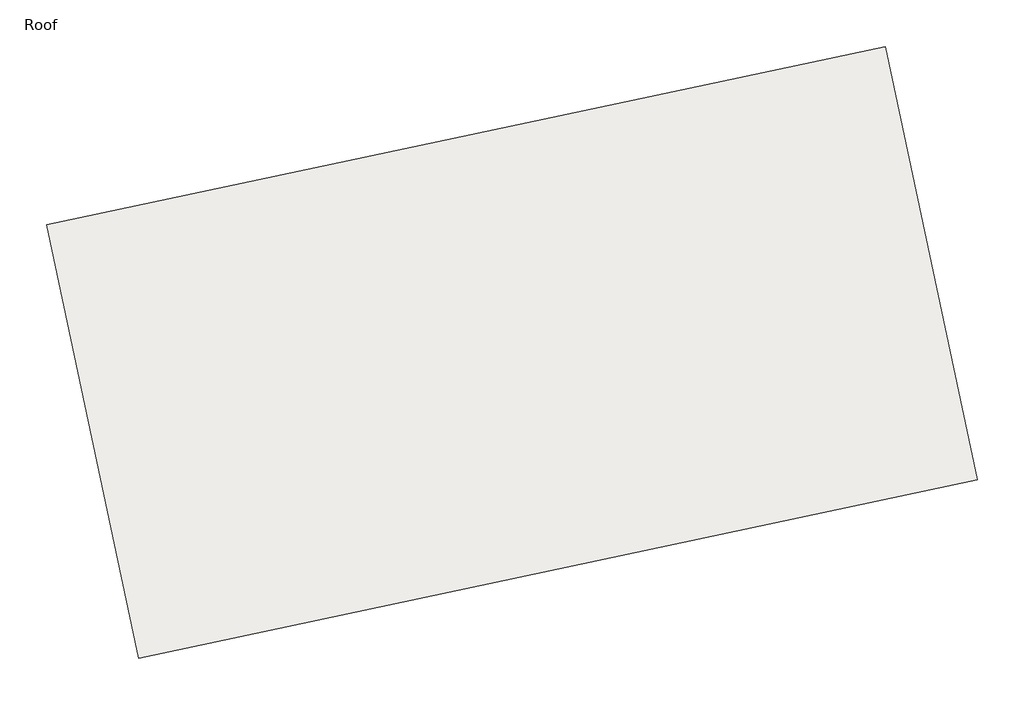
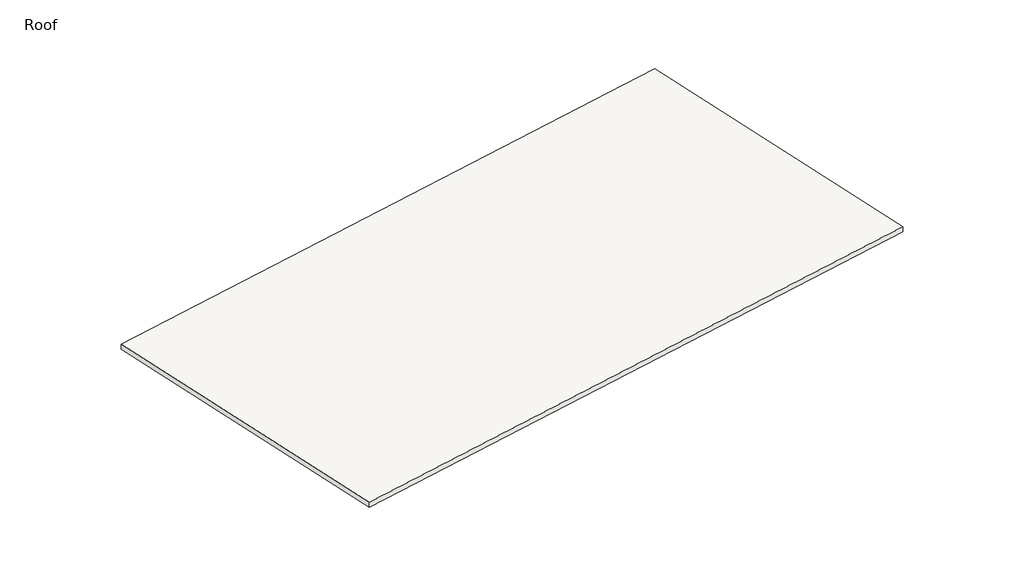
# One storey: 1 roof.
"""IFC4 building model written with IfcOpenShell, lengths in millimetres."""

from ifc_helpers import new_model, si_unit, frame, origin, place, context, project, spatial, polyline, outline, extrude, element, save

model = new_model("IFC4")

# Units and contexts
model_context = context("Model", 3, world=origin())
ifc_project = project(units=[si_unit("LENGTHUNIT", "METRE", prefix="MILLI")], contexts=[model_context])

# Site, building, storey
site = spatial("IfcSite", under=ifc_project)
building = spatial("IfcBuilding", under=site)
storey = spatial("IfcBuildingStorey", under=building, Name="Roof", Elevation=51816.0)

# Roof
placement = place(None, origin())
element("IfcRoof", 1, ObjectType="Generic - 12\"", at=placement, inside=storey, context=model_context, shape_type="SweptSolid", body=[
    extrude(outline(polyline([(-17738.8236946, -11990.7071596), (-21731.2271464, 6792.0743288), (14641.7782754, 14523.3952988), (18634.1817272, -4259.3861895), (-17738.8236946, -11990.7071596)])), frame((0.0, 0.0, 51816.0), z_axis=(0.0, 0.0, 1.0), x_axis=(1.0, 0.0, 0.0)), (0.0, 0.0, 1.0), 304.8),
])

save(model, "model.ifc")
